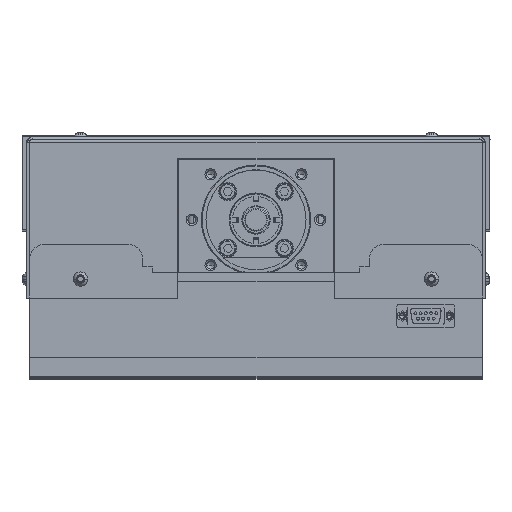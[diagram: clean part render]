
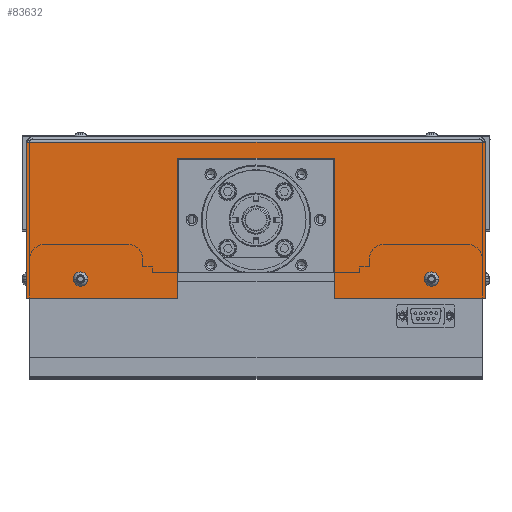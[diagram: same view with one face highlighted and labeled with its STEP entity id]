
A CAD part, top view. The second image highlights one B-rep face of the part: STEP entity #83632.
In plain terms, the highlighted planar face has unit normal (0, 0, 1).
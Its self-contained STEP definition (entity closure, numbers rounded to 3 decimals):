
#2992 = CIRCLE ( 'NONE', #4458, 3.8 ) ;
#3162 = CIRCLE ( 'NONE', #4512, 3.8 ) ;
#4458 = AXIS2_PLACEMENT_3D ( 'NONE', #11371, #11372, #11373 ) ;
#4512 = AXIS2_PLACEMENT_3D ( 'NONE', #11648, #11649, #11650 ) ;
#11371 = CARTESIAN_POINT ( 'NONE',  ( -96.052, -14.381, 437.627 ) ) ;
#11372 = DIRECTION ( 'NONE',  ( 0., 0., -1. ) ) ;
#11373 = DIRECTION ( 'NONE',  ( 0., 1., 0. ) ) ;
#11648 = CARTESIAN_POINT ( 'NONE',  ( 89.948, -14.381, 437.627 ) ) ;
#11649 = DIRECTION ( 'NONE',  ( 0., 0., -1. ) ) ;
#11650 = DIRECTION ( 'NONE',  ( 0., 1., 0. ) ) ;
#23225 = CARTESIAN_POINT ( 'NONE',  ( 118.448, 58.119, 437.627 ) ) ;
#23248 = CARTESIAN_POINT ( 'NONE',  ( -124.552, 58.119, 437.627 ) ) ;
#23383 = CARTESIAN_POINT ( 'NONE',  ( 118.448, -24.381, 437.627 ) ) ;
#23397 = CARTESIAN_POINT ( 'NONE',  ( 38.448, -24.381, 437.627 ) ) ;
#23398 = CARTESIAN_POINT ( 'NONE',  ( 38.448, 49.619, 437.627 ) ) ;
#23399 = CARTESIAN_POINT ( 'NONE',  ( -44.552, 49.619, 437.627 ) ) ;
#23403 = CARTESIAN_POINT ( 'NONE',  ( -124.552, -24.381, 437.627 ) ) ;
#23405 = CARTESIAN_POINT ( 'NONE',  ( -44.552, -24.381, 437.627 ) ) ;
#39392 = AXIS2_PLACEMENT_3D ( 'NONE', #46747, #46733, #46753 ) ;
#45913 = FACE_BOUND ( 'NONE', #72101, .T. ) ;
#45918 = FACE_BOUND ( 'NONE', #72114, .T. ) ;
#45920 = FACE_OUTER_BOUND ( 'NONE', #72116, .T. ) ;
#46733 = DIRECTION ( 'NONE',  ( 0., 0., -1. ) ) ;
#46747 = CARTESIAN_POINT ( 'NONE',  ( -3.052, -24.381, 437.627 ) ) ;
#46750 = PLANE ( 'NONE',  #39392 ) ;
#46753 = DIRECTION ( 'NONE',  ( 0., 1., 0. ) ) ;
#47944 = CARTESIAN_POINT ( 'NONE',  ( 93.748, -14.352, 437.627 ) ) ;
#48115 = CARTESIAN_POINT ( 'NONE',  ( 86.148, -14.409, 437.627 ) ) ;
#48254 = CARTESIAN_POINT ( 'NONE',  ( -99.852, -14.409, 437.627 ) ) ;
#48495 = CARTESIAN_POINT ( 'NONE',  ( -92.252, -14.352, 437.627 ) ) ;
#60439 = EDGE_CURVE ( 'NONE', #94778, #94968, #97027, .T. ) ;
#60440 = EDGE_CURVE ( 'NONE', #70011, #69988, #97068, .T. ) ;
#60441 = EDGE_CURVE ( 'NONE', #97320, #95116, #97071, .T. ) ;
#60640 = EDGE_CURVE ( 'NONE', #69988, #70146, #97450, .T. ) ;
#60649 = EDGE_CURVE ( 'NONE', #70161, #70162, #97503, .T. ) ;
#60661 = EDGE_CURVE ( 'NONE', #70011, #70166, #97531, .T. ) ;
#60662 = EDGE_CURVE ( 'NONE', #70166, #70168, #97551, .T. ) ;
#60663 = EDGE_CURVE ( 'NONE', #70162, #70168, #97559, .T. ) ;
#60664 = EDGE_CURVE ( 'NONE', #70160, #70161, #97563, .T. ) ;
#60665 = EDGE_CURVE ( 'NONE', #70160, #70146, #97555, .T. ) ;
#66395 = EDGE_CURVE ( 'NONE', #95116, #97320, #2992, .T. ) ;
#66507 = EDGE_CURVE ( 'NONE', #94968, #94778, #3162, .T. ) ;
#69988 = VERTEX_POINT ( 'NONE', #23225 ) ;
#70011 = VERTEX_POINT ( 'NONE', #23248 ) ;
#70146 = VERTEX_POINT ( 'NONE', #23383 ) ;
#70160 = VERTEX_POINT ( 'NONE', #23397 ) ;
#70161 = VERTEX_POINT ( 'NONE', #23398 ) ;
#70162 = VERTEX_POINT ( 'NONE', #23399 ) ;
#70166 = VERTEX_POINT ( 'NONE', #23403 ) ;
#70168 = VERTEX_POINT ( 'NONE', #23405 ) ;
#72101 = EDGE_LOOP ( 'NONE', ( #73724, #73725 ) ) ;
#72114 = EDGE_LOOP ( 'NONE', ( #73734, #73735 ) ) ;
#72116 = EDGE_LOOP ( 'NONE', ( #73726, #73727, #73728, #73729, #73730, #73731, #73732, #73733 ) ) ;
#73724 = ORIENTED_EDGE ( 'NONE', *, *, #60441, .T. ) ;
#73725 = ORIENTED_EDGE ( 'NONE', *, *, #66395, .T. ) ;
#73726 = ORIENTED_EDGE ( 'NONE', *, *, #60662, .T. ) ;
#73727 = ORIENTED_EDGE ( 'NONE', *, *, #60663, .F. ) ;
#73728 = ORIENTED_EDGE ( 'NONE', *, *, #60649, .F. ) ;
#73729 = ORIENTED_EDGE ( 'NONE', *, *, #60664, .F. ) ;
#73730 = ORIENTED_EDGE ( 'NONE', *, *, #60665, .T. ) ;
#73731 = ORIENTED_EDGE ( 'NONE', *, *, #60640, .F. ) ;
#73732 = ORIENTED_EDGE ( 'NONE', *, *, #60440, .F. ) ;
#73733 = ORIENTED_EDGE ( 'NONE', *, *, #60661, .T. ) ;
#73734 = ORIENTED_EDGE ( 'NONE', *, *, #60439, .T. ) ;
#73735 = ORIENTED_EDGE ( 'NONE', *, *, #66507, .T. ) ;
#81304 = AXIS2_PLACEMENT_3D ( 'NONE', #98324, #98326, #98328 ) ;
#81305 = AXIS2_PLACEMENT_3D ( 'NONE', #98336, #98338, #98339 ) ;
#83632 = ADVANCED_FACE ( 'NONE', ( #45913, #45920, #45918 ), #46750, .F. ) ;
#94778 = VERTEX_POINT ( 'NONE', #47944 ) ;
#94968 = VERTEX_POINT ( 'NONE', #48115 ) ;
#95116 = VERTEX_POINT ( 'NONE', #48254 ) ;
#97027 = CIRCLE ( 'NONE', #81304, 3.8 ) ;
#97068 = LINE ( 'NONE', #98322, #97072 ) ;
#97071 = CIRCLE ( 'NONE', #81305, 3.8 ) ;
#97072 = VECTOR ( 'NONE', #98302, 1000. ) ;
#97320 = VERTEX_POINT ( 'NONE', #48495 ) ;
#97450 = LINE ( 'NONE', #99520, #97472 ) ;
#97472 = VECTOR ( 'NONE', #99522, 1000. ) ;
#97503 = LINE ( 'NONE', #99538, #97509 ) ;
#97509 = VECTOR ( 'NONE', #99539, 1000. ) ;
#97531 = LINE ( 'NONE', #99541, #97557 ) ;
#97551 = LINE ( 'NONE', #99551, #97561 ) ;
#97555 = LINE ( 'NONE', #99561, #97573 ) ;
#97557 = VECTOR ( 'NONE', #99563, 1000. ) ;
#97559 = LINE ( 'NONE', #99566, #97565 ) ;
#97561 = VECTOR ( 'NONE', #99565, 1000. ) ;
#97563 = LINE ( 'NONE', #99568, #97569 ) ;
#97565 = VECTOR ( 'NONE', #99567, 1000. ) ;
#97569 = VECTOR ( 'NONE', #99569, 1000. ) ;
#97573 = VECTOR ( 'NONE', #99570, 1000. ) ;
#98302 = DIRECTION ( 'NONE',  ( 1., 0., 0. ) ) ;
#98322 = CARTESIAN_POINT ( 'NONE',  ( 115.448, 58.119, 437.627 ) ) ;
#98324 = CARTESIAN_POINT ( 'NONE',  ( 89.948, -14.381, 437.627 ) ) ;
#98326 = DIRECTION ( 'NONE',  ( 0., 0., -1. ) ) ;
#98328 = DIRECTION ( 'NONE',  ( 0., 1., 0. ) ) ;
#98336 = CARTESIAN_POINT ( 'NONE',  ( -96.052, -14.381, 437.627 ) ) ;
#98338 = DIRECTION ( 'NONE',  ( 0., 0., -1. ) ) ;
#98339 = DIRECTION ( 'NONE',  ( 0., 1., 0. ) ) ;
#99520 = CARTESIAN_POINT ( 'NONE',  ( 118.448, 58.119, 437.627 ) ) ;
#99522 = DIRECTION ( 'NONE',  ( 0., -1., 0. ) ) ;
#99538 = CARTESIAN_POINT ( 'NONE',  ( -44.552, 49.619, 437.627 ) ) ;
#99539 = DIRECTION ( 'NONE',  ( -1., 0., 0. ) ) ;
#99541 = CARTESIAN_POINT ( 'NONE',  ( -124.552, 58.119, 437.627 ) ) ;
#99551 = CARTESIAN_POINT ( 'NONE',  ( -3.052, -24.381, 437.627 ) ) ;
#99561 = CARTESIAN_POINT ( 'NONE',  ( -3.052, -24.381, 437.627 ) ) ;
#99563 = DIRECTION ( 'NONE',  ( 0., -1., 0. ) ) ;
#99565 = DIRECTION ( 'NONE',  ( 1., 0., 0. ) ) ;
#99566 = CARTESIAN_POINT ( 'NONE',  ( -44.552, 49.619, 437.627 ) ) ;
#99567 = DIRECTION ( 'NONE',  ( 0., -1., 0. ) ) ;
#99568 = CARTESIAN_POINT ( 'NONE',  ( 38.448, 49.619, 437.627 ) ) ;
#99569 = DIRECTION ( 'NONE',  ( 0., 1., 0. ) ) ;
#99570 = DIRECTION ( 'NONE',  ( 1., 0., 0. ) ) ;
